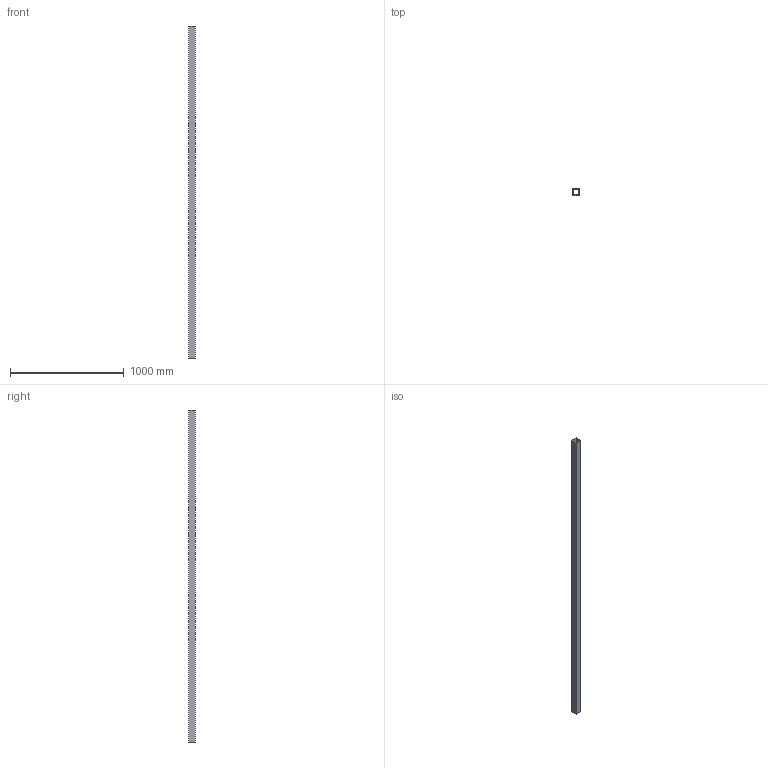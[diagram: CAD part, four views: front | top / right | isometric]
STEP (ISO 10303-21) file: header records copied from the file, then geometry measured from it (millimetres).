
FILE_DESCRIPTION(('Open CASCADE Model'),'2;1');
FILE_NAME('Open CASCADE Shape Model','2026-10-19T10:09:27',('Author'),( 'Open CASCADE'),'Open CASCADE STEP processor 8.0','Open CASCADE 8.0' ,'Unknown');
FILE_SCHEMA(('AUTOMOTIVE_DESIGN { 1 0 10303 214 1 1 1 1 }'));
Length unit declared in the file: millimetre
Products named in the file (1): AC_SHS60x60x4_L2914334 171
Bounding box: 60 x 60 x 2914.33 mm (x, y, z)
Volume: 2611243.3 mm3; surface area: 1307413.6 mm2
Topology: 1 solids, 1 shells, 10 faces, 24 edges, 16 vertices
Faces by surface type: plane 10
Entity records: 614 total; most frequent: CARTESIAN_POINT 99, DIRECTION 94, LINE 72, VECTOR 72, ORIENTED_EDGE 48, PCURVE 48, DEFINITIONAL_REPRESENTATION 48, EDGE_CURVE 24
